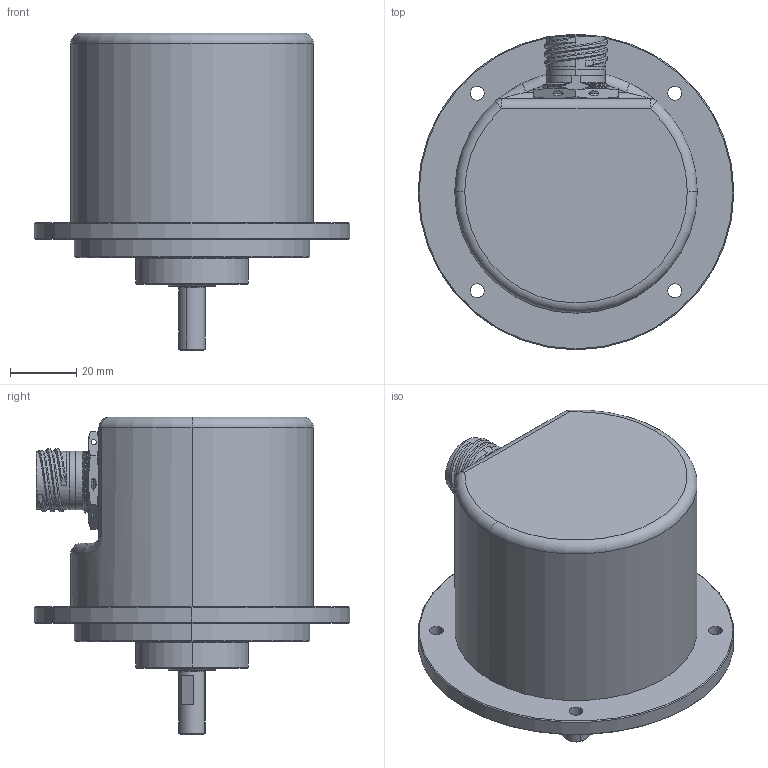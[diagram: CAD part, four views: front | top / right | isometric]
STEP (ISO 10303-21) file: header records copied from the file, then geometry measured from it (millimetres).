
FILE_DESCRIPTION (( 'STEP AP214' ), '1' );
FILE_NAME ('DL-66.STEP', '2025-03-24T13:55:41', ( '' ), ( '' ), 'SwSTEP 2.0', 'SolidWorks 2022', '' );
FILE_SCHEMA (( 'AUTOMOTIVE_DESIGN' ));
Length unit declared in the file: millimetre
Products named in the file (12): socket head cap screw_din_DIN 912 M2 x 5; MP-03463-00; MP-03462-00_With holes, no break; BEARING-28; socket head cap screw_din_DIN 912 M3 x 12 --- 12N; MP-00302_2-005; D38999-24WB35PN; MP-00301_2-145; MA-03464; DL-66; MP-03466-01; MP-03468-00
Assembly tree (23 placements, depth 3):
  DL-66
    MA-03464
      MP-03462-00_With holes, no break
      BEARING-28  x2
      MP-03463-00
    MP-03466-01
    D38999-24WB35PN
    MP-03468-00
    MP-00302_2-005  x6
    MP-00301_2-145
    socket head cap screw_din_DIN 912 M2 x 5  x2
    socket head cap screw_din_DIN 912 M3 x 12 --- 12N  x6
Bounding box: 95 x 95 x 95.6 mm (x, y, z)
Volume: 102188.6 mm3; surface area: 82994.6 mm2
Topology: 28 solids, 28 shells, 2313 faces, 5698 edges, 3505 vertices
Faces by surface type: plane 976, cylinder 718, cone 301, torus 254, bspline 36, sphere 28
Entity records: 83656 total; most frequent: CARTESIAN_POINT 28995, DIRECTION 10607, ORIENTED_EDGE 10208, EDGE_CURVE 5104, AXIS2_PLACEMENT_3D 3879, VERTEX_POINT 3207, VECTOR 2849, LINE 2849
